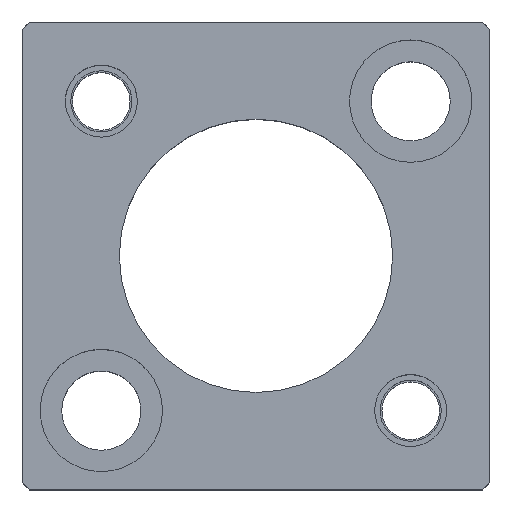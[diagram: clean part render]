
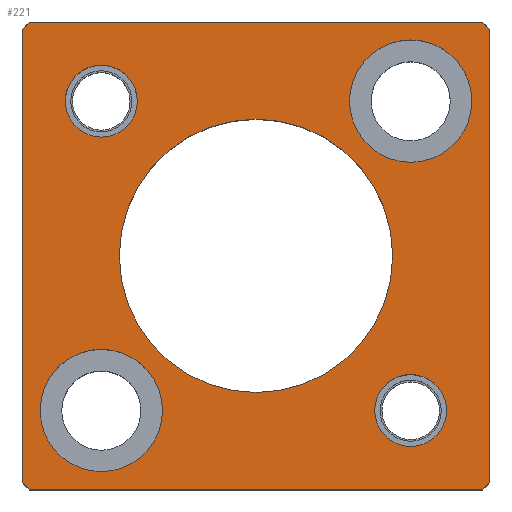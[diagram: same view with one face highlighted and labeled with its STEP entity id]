
A CAD part, top view. The second image highlights one B-rep face of the part: STEP entity #221.
In plain terms, the highlighted planar face has unit normal (0, 0, 1).
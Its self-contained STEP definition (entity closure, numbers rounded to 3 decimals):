
#103=FACE_BOUND('',#329,.T.);
#104=FACE_BOUND('',#330,.T.);
#105=FACE_BOUND('',#331,.T.);
#106=FACE_BOUND('',#332,.T.);
#107=FACE_BOUND('',#333,.T.);
#108=FACE_BOUND('',#334,.T.);
#157=CIRCLE('',#928,8.5);
#159=CIRCLE('',#931,8.5);
#161=CIRCLE('',#935,8.5);
#163=CIRCLE('',#938,8.5);
#165=CIRCLE('',#942,5.);
#166=CIRCLE('',#943,5.);
#167=CIRCLE('',#944,5.);
#168=CIRCLE('',#945,5.);
#169=CIRCLE('',#946,19.);
#170=CIRCLE('',#947,19.);
#221=ADVANCED_FACE('',(#103,#104,#105,#106,#107,#108),#260,.T.);
#260=PLANE('',#948);
#329=EDGE_LOOP('',(#469,#470,#471,#472,#473,#474,#475,#476));
#330=EDGE_LOOP('',(#477,#478));
#331=EDGE_LOOP('',(#479,#480));
#332=EDGE_LOOP('',(#481,#482));
#333=EDGE_LOOP('',(#483,#484));
#334=EDGE_LOOP('',(#485,#486));
#469=ORIENTED_EDGE('',*,*,#683,.T.);
#470=ORIENTED_EDGE('',*,*,#680,.T.);
#471=ORIENTED_EDGE('',*,*,#698,.T.);
#472=ORIENTED_EDGE('',*,*,#695,.T.);
#473=ORIENTED_EDGE('',*,*,#692,.T.);
#474=ORIENTED_EDGE('',*,*,#676,.T.);
#475=ORIENTED_EDGE('',*,*,#673,.T.);
#476=ORIENTED_EDGE('',*,*,#669,.T.);
#477=ORIENTED_EDGE('',*,*,#727,.F.);
#478=ORIENTED_EDGE('',*,*,#728,.F.);
#479=ORIENTED_EDGE('',*,*,#729,.F.);
#480=ORIENTED_EDGE('',*,*,#730,.F.);
#481=ORIENTED_EDGE('',*,*,#725,.F.);
#482=ORIENTED_EDGE('',*,*,#721,.F.);
#483=ORIENTED_EDGE('',*,*,#719,.F.);
#484=ORIENTED_EDGE('',*,*,#715,.F.);
#485=ORIENTED_EDGE('',*,*,#731,.T.);
#486=ORIENTED_EDGE('',*,*,#732,.T.);
#595=VERTEX_POINT('',#1264);
#596=VERTEX_POINT('',#1266);
#599=VERTEX_POINT('',#1274);
#601=VERTEX_POINT('',#1280);
#604=VERTEX_POINT('',#1287);
#605=VERTEX_POINT('',#1289);
#612=VERTEX_POINT('',#1312);
#614=VERTEX_POINT('',#1318);
#625=VERTEX_POINT('',#1357);
#626=VERTEX_POINT('',#1358);
#629=VERTEX_POINT('',#1370);
#630=VERTEX_POINT('',#1371);
#633=VERTEX_POINT('',#1383);
#634=VERTEX_POINT('',#1384);
#635=VERTEX_POINT('',#1387);
#636=VERTEX_POINT('',#1388);
#637=VERTEX_POINT('',#1391);
#638=VERTEX_POINT('',#1392);
#669=EDGE_CURVE('',#596,#595,#781,.T.);
#673=EDGE_CURVE('',#599,#596,#785,.T.);
#676=EDGE_CURVE('',#601,#599,#788,.T.);
#680=EDGE_CURVE('',#605,#604,#792,.T.);
#683=EDGE_CURVE('',#595,#605,#795,.T.);
#692=EDGE_CURVE('',#612,#601,#804,.T.);
#695=EDGE_CURVE('',#614,#612,#807,.T.);
#698=EDGE_CURVE('',#604,#614,#810,.T.);
#715=EDGE_CURVE('',#625,#626,#157,.T.);
#719=EDGE_CURVE('',#626,#625,#159,.T.);
#721=EDGE_CURVE('',#629,#630,#161,.T.);
#725=EDGE_CURVE('',#630,#629,#163,.T.);
#727=EDGE_CURVE('',#633,#634,#165,.T.);
#728=EDGE_CURVE('',#634,#633,#166,.T.);
#729=EDGE_CURVE('',#635,#636,#167,.T.);
#730=EDGE_CURVE('',#636,#635,#168,.T.);
#731=EDGE_CURVE('',#637,#638,#169,.T.);
#732=EDGE_CURVE('',#638,#637,#170,.T.);
#781=LINE('',#1265,#843);
#785=LINE('',#1273,#847);
#788=LINE('',#1279,#850);
#792=LINE('',#1288,#854);
#795=LINE('',#1294,#857);
#804=LINE('',#1311,#866);
#807=LINE('',#1317,#869);
#810=LINE('',#1323,#872);
#843=VECTOR('',#1005,1.);
#847=VECTOR('',#1011,1.);
#850=VECTOR('',#1016,1.);
#854=VECTOR('',#1022,1.);
#857=VECTOR('',#1027,1.);
#866=VECTOR('',#1042,1.);
#869=VECTOR('',#1047,1.);
#872=VECTOR('',#1052,1.);
#928=AXIS2_PLACEMENT_3D('',#1356,#1091,#1092);
#931=AXIS2_PLACEMENT_3D('',#1365,#1099,#1100);
#935=AXIS2_PLACEMENT_3D('',#1369,#1107,#1108);
#938=AXIS2_PLACEMENT_3D('',#1378,#1115,#1116);
#942=AXIS2_PLACEMENT_3D('',#1382,#1123,#1124);
#943=AXIS2_PLACEMENT_3D('',#1385,#1125,#1126);
#944=AXIS2_PLACEMENT_3D('',#1386,#1127,#1128);
#945=AXIS2_PLACEMENT_3D('',#1389,#1129,#1130);
#946=AXIS2_PLACEMENT_3D('',#1390,#1131,#1132);
#947=AXIS2_PLACEMENT_3D('',#1393,#1133,#1134);
#948=AXIS2_PLACEMENT_3D('',#1394,#1135,#1136);
#1005=DIRECTION('',(1.,0.,0.));
#1011=DIRECTION('',(0.707,-0.707,0.));
#1016=DIRECTION('',(0.,-1.,0.));
#1022=DIRECTION('',(0.,1.,0.));
#1027=DIRECTION('',(0.707,0.707,0.));
#1042=DIRECTION('',(-0.707,-0.707,0.));
#1047=DIRECTION('',(-1.,0.,0.));
#1052=DIRECTION('',(-0.707,0.707,0.));
#1091=DIRECTION('',(0.,0.,1.));
#1092=DIRECTION('',(-1.,0.,0.));
#1099=DIRECTION('',(0.,0.,1.));
#1100=DIRECTION('',(1.,0.,0.));
#1107=DIRECTION('',(0.,0.,1.));
#1108=DIRECTION('',(-1.,0.,0.));
#1115=DIRECTION('',(0.,0.,1.));
#1116=DIRECTION('',(1.,0.,0.));
#1123=DIRECTION('',(0.,0.,1.));
#1124=DIRECTION('',(1.,0.,0.));
#1125=DIRECTION('',(0.,0.,1.));
#1126=DIRECTION('',(-1.,0.,0.));
#1127=DIRECTION('',(0.,0.,1.));
#1128=DIRECTION('',(1.,0.,0.));
#1129=DIRECTION('',(0.,0.,1.));
#1130=DIRECTION('',(-1.,0.,0.));
#1131=DIRECTION('',(0.,0.,-1.));
#1132=DIRECTION('',(-1.,0.,0.));
#1133=DIRECTION('',(0.,0.,-1.));
#1134=DIRECTION('',(1.,0.,0.));
#1135=DIRECTION('',(0.,0.,1.));
#1136=DIRECTION('',(-1.,0.,0.));
#1264=CARTESIAN_POINT('',(31.5,-32.5,30.));
#1265=CARTESIAN_POINT('',(-31.5,-32.5,30.));
#1266=CARTESIAN_POINT('',(-31.5,-32.5,30.));
#1273=CARTESIAN_POINT('',(-31.5,-32.5,30.));
#1274=CARTESIAN_POINT('',(-32.5,-31.5,30.));
#1279=CARTESIAN_POINT('',(-32.5,31.5,30.));
#1280=CARTESIAN_POINT('',(-32.5,31.5,30.));
#1287=CARTESIAN_POINT('',(32.5,31.5,30.));
#1288=CARTESIAN_POINT('',(32.5,31.5,30.));
#1289=CARTESIAN_POINT('',(32.5,-31.5,30.));
#1294=CARTESIAN_POINT('',(32.5,-31.5,30.));
#1311=CARTESIAN_POINT('',(-32.5,31.5,30.));
#1312=CARTESIAN_POINT('',(-31.5,32.5,30.));
#1317=CARTESIAN_POINT('',(-31.5,32.5,30.));
#1318=CARTESIAN_POINT('',(31.5,32.5,30.));
#1323=CARTESIAN_POINT('',(31.5,32.5,30.));
#1356=CARTESIAN_POINT('',(-21.5,-21.5,30.));
#1357=CARTESIAN_POINT('',(-21.5,-30.,30.));
#1358=CARTESIAN_POINT('',(-21.5,-13.,30.));
#1365=CARTESIAN_POINT('',(-21.5,-21.5,30.));
#1369=CARTESIAN_POINT('',(21.5,21.5,30.));
#1370=CARTESIAN_POINT('',(21.5,13.,30.));
#1371=CARTESIAN_POINT('',(21.5,30.,30.));
#1378=CARTESIAN_POINT('',(21.5,21.5,30.));
#1382=CARTESIAN_POINT('',(-21.5,21.5,30.));
#1383=CARTESIAN_POINT('',(-21.5,26.5,30.));
#1384=CARTESIAN_POINT('',(-21.5,16.5,30.));
#1385=CARTESIAN_POINT('',(-21.5,21.5,30.));
#1386=CARTESIAN_POINT('',(21.5,-21.5,30.));
#1387=CARTESIAN_POINT('',(21.5,-16.5,30.));
#1388=CARTESIAN_POINT('',(21.5,-26.5,30.));
#1389=CARTESIAN_POINT('',(21.5,-21.5,30.));
#1390=CARTESIAN_POINT('',(0.,0.,30.));
#1391=CARTESIAN_POINT('',(0.,19.,30.));
#1392=CARTESIAN_POINT('',(0.,-19.,30.));
#1393=CARTESIAN_POINT('',(0.,0.,30.));
#1394=CARTESIAN_POINT('',(31.5,-32.5,30.));
